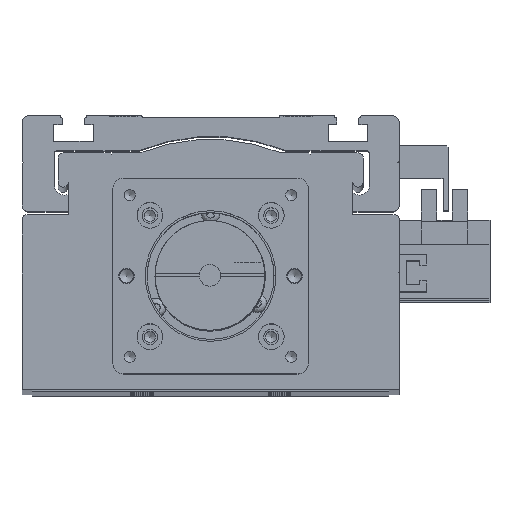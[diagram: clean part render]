
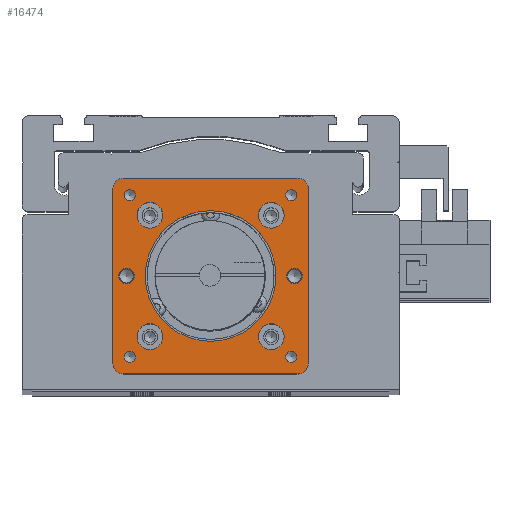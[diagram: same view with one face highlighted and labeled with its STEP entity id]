
A CAD part, top view. The second image highlights one B-rep face of the part: STEP entity #16474.
In plain terms, the highlighted planar face has unit normal (0, 0, 1).
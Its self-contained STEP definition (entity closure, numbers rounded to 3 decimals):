
#16238=CARTESIAN_POINT('',(54.0,57.0,0.0));
#16239=VERTEX_POINT('',#16238);
#16246=CARTESIAN_POINT('',(57.0,54.0,0.0));
#16247=VERTEX_POINT('',#16246);
#16248=CARTESIAN_POINT('',(54.0,54.0,0.0));
#16249=DIRECTION('',(0.0,0.0,-1.));
#16250=DIRECTION('',(0.707,0.707,0.0));
#16251=AXIS2_PLACEMENT_3D('',#16248,#16249,#16250);
#16252=CIRCLE('',#16251,3.);
#16253=EDGE_CURVE('',#16239,#16247,#16252,.T.);
#16270=CARTESIAN_POINT('',(57.0,3.,0.0));
#16271=VERTEX_POINT('',#16270);
#16272=CARTESIAN_POINT('',(57.0,3.,0.0));
#16273=DIRECTION('',(0.0,1.0,0.0));
#16274=VECTOR('',#16273,51.0);
#16275=LINE('',#16272,#16274);
#16276=EDGE_CURVE('',#16271,#16247,#16275,.T.);
#16295=CARTESIAN_POINT('',(28.5,28.5,0.0));
#16296=DIRECTION('',(0.0,0.0,1.0));
#16297=DIRECTION('',(1.0,0.0,0.0));
#16298=AXIS2_PLACEMENT_3D('',#16295,#16296,#16297);
#16299=PLANE('',#16298);
#16300=ORIENTED_EDGE('',*,*,#16253,.F.);
#16301=CARTESIAN_POINT('',(3.,57.0,0.0));
#16302=VERTEX_POINT('',#16301);
#16303=CARTESIAN_POINT('',(54.0,57.0,0.0));
#16304=DIRECTION('',(-1.0,0.0,0.0));
#16305=VECTOR('',#16304,51.0);
#16306=LINE('',#16303,#16305);
#16307=EDGE_CURVE('',#16239,#16302,#16306,.T.);
#16308=ORIENTED_EDGE('',*,*,#16307,.T.);
#16309=CARTESIAN_POINT('',(0.0,54.0,0.0));
#16310=VERTEX_POINT('',#16309);
#16311=CARTESIAN_POINT('',(3.,54.0,0.0));
#16312=DIRECTION('',(0.0,0.0,-1.0));
#16313=DIRECTION('',(-0.707,0.707,0.0));
#16314=AXIS2_PLACEMENT_3D('',#16311,#16312,#16313);
#16315=CIRCLE('',#16314,3.0);
#16316=EDGE_CURVE('',#16310,#16302,#16315,.T.);
#16317=ORIENTED_EDGE('',*,*,#16316,.F.);
#16318=CARTESIAN_POINT('',(0.0,3.,0.0));
#16319=VERTEX_POINT('',#16318);
#16320=CARTESIAN_POINT('',(0.0,54.0,0.0));
#16321=DIRECTION('',(0.0,-1.0,0.0));
#16322=VECTOR('',#16321,51.0);
#16323=LINE('',#16320,#16322);
#16324=EDGE_CURVE('',#16310,#16319,#16323,.T.);
#16325=ORIENTED_EDGE('',*,*,#16324,.T.);
#16326=CARTESIAN_POINT('',(3.,0.0,0.0));
#16327=VERTEX_POINT('',#16326);
#16328=CARTESIAN_POINT('',(3.,3.,0.0));
#16329=DIRECTION('',(0.0,0.0,-1.));
#16330=DIRECTION('',(-0.707,-0.707,0.0));
#16331=AXIS2_PLACEMENT_3D('',#16328,#16329,#16330);
#16332=CIRCLE('',#16331,3.);
#16333=EDGE_CURVE('',#16327,#16319,#16332,.T.);
#16334=ORIENTED_EDGE('',*,*,#16333,.F.);
#16335=CARTESIAN_POINT('',(54.0,0.0,0.0));
#16336=VERTEX_POINT('',#16335);
#16337=CARTESIAN_POINT('',(3.,0.0,0.0));
#16338=DIRECTION('',(1.0,0.0,0.0));
#16339=VECTOR('',#16338,51.0);
#16340=LINE('',#16337,#16339);
#16341=EDGE_CURVE('',#16327,#16336,#16340,.T.);
#16342=ORIENTED_EDGE('',*,*,#16341,.T.);
#16343=CARTESIAN_POINT('',(54.0,3.,0.0));
#16344=DIRECTION('',(0.0,0.0,-1.));
#16345=DIRECTION('',(0.707,-0.707,0.0));
#16346=AXIS2_PLACEMENT_3D('',#16343,#16344,#16345);
#16347=CIRCLE('',#16346,3.);
#16348=EDGE_CURVE('',#16271,#16336,#16347,.T.);
#16349=ORIENTED_EDGE('',*,*,#16348,.F.);
#16350=ORIENTED_EDGE('',*,*,#16276,.T.);
#16351=EDGE_LOOP('',(#16300,#16308,#16317,#16325,#16334,#16342,#16349,#16350));
#16352=FACE_OUTER_BOUND('',#16351,.T.);
#16353=CARTESIAN_POINT('',(6.25,28.5,0.0));
#16354=VERTEX_POINT('',#16353);
#16355=CARTESIAN_POINT('',(4.,28.5,0.0));
#16356=DIRECTION('',(0.0,0.0,-1.0));
#16357=DIRECTION('',(1.0,0.0,0.0));
#16358=AXIS2_PLACEMENT_3D('',#16355,#16356,#16357);
#16359=CIRCLE('',#16358,2.25);
#16360=EDGE_CURVE('',#16354,#16354,#16359,.T.);
#16361=ORIENTED_EDGE('',*,*,#16360,.T.);
#16362=EDGE_LOOP('',(#16361));
#16363=FACE_BOUND('',#16362,.T.);
#16364=CARTESIAN_POINT('',(55.25,28.5,0.0));
#16365=VERTEX_POINT('',#16364);
#16366=CARTESIAN_POINT('',(53.,28.5,0.0));
#16367=DIRECTION('',(0.0,0.0,-1.0));
#16368=DIRECTION('',(1.0,0.0,0.0));
#16369=AXIS2_PLACEMENT_3D('',#16366,#16367,#16368);
#16370=CIRCLE('',#16369,2.25);
#16371=EDGE_CURVE('',#16365,#16365,#16370,.T.);
#16372=ORIENTED_EDGE('',*,*,#16371,.T.);
#16373=EDGE_LOOP('',(#16372));
#16374=FACE_BOUND('',#16373,.T.);
#16375=CARTESIAN_POINT('',(6.546,4.925,0.0));
#16376=VERTEX_POINT('',#16375);
#16377=CARTESIAN_POINT('',(4.925,4.925,0.0));
#16378=DIRECTION('',(0.0,0.0,-1.0));
#16379=DIRECTION('',(1.0,0.0,0.0));
#16380=AXIS2_PLACEMENT_3D('',#16377,#16378,#16379);
#16381=CIRCLE('',#16380,1.621);
#16382=EDGE_CURVE('',#16376,#16376,#16381,.T.);
#16383=ORIENTED_EDGE('',*,*,#16382,.T.);
#16384=EDGE_LOOP('',(#16383));
#16385=FACE_BOUND('',#16384,.T.);
#16386=CARTESIAN_POINT('',(53.696,52.075,0.0));
#16387=VERTEX_POINT('',#16386);
#16388=CARTESIAN_POINT('',(52.075,52.075,0.0));
#16389=DIRECTION('',(0.0,0.0,-1.0));
#16390=DIRECTION('',(1.0,0.0,0.0));
#16391=AXIS2_PLACEMENT_3D('',#16388,#16389,#16390);
#16392=CIRCLE('',#16391,1.621);
#16393=EDGE_CURVE('',#16387,#16387,#16392,.T.);
#16394=ORIENTED_EDGE('',*,*,#16393,.T.);
#16395=EDGE_LOOP('',(#16394));
#16396=FACE_BOUND('',#16395,.T.);
#16397=CARTESIAN_POINT('',(6.546,52.075,0.0));
#16398=VERTEX_POINT('',#16397);
#16399=CARTESIAN_POINT('',(4.925,52.075,0.0));
#16400=DIRECTION('',(0.0,0.0,-1.0));
#16401=DIRECTION('',(1.0,0.0,0.0));
#16402=AXIS2_PLACEMENT_3D('',#16399,#16400,#16401);
#16403=CIRCLE('',#16402,1.621);
#16404=EDGE_CURVE('',#16398,#16398,#16403,.T.);
#16405=ORIENTED_EDGE('',*,*,#16404,.T.);
#16406=EDGE_LOOP('',(#16405));
#16407=FACE_BOUND('',#16406,.T.);
#16408=CARTESIAN_POINT('',(53.696,4.925,0.0));
#16409=VERTEX_POINT('',#16408);
#16410=CARTESIAN_POINT('',(52.075,4.925,0.0));
#16411=DIRECTION('',(0.0,0.0,-1.0));
#16412=DIRECTION('',(1.0,0.0,0.0));
#16413=AXIS2_PLACEMENT_3D('',#16410,#16411,#16412);
#16414=CIRCLE('',#16413,1.621);
#16415=EDGE_CURVE('',#16409,#16409,#16414,.T.);
#16416=ORIENTED_EDGE('',*,*,#16415,.T.);
#16417=EDGE_LOOP('',(#16416));
#16418=FACE_BOUND('',#16417,.T.);
#16419=CARTESIAN_POINT('',(49.95,10.8,0.0));
#16420=VERTEX_POINT('',#16419);
#16421=CARTESIAN_POINT('',(46.2,10.8,0.0));
#16422=DIRECTION('',(0.0,0.0,-1.0));
#16423=DIRECTION('',(1.0,0.0,0.0));
#16424=AXIS2_PLACEMENT_3D('',#16421,#16422,#16423);
#16425=CIRCLE('',#16424,3.75);
#16426=EDGE_CURVE('',#16420,#16420,#16425,.T.);
#16427=ORIENTED_EDGE('',*,*,#16426,.T.);
#16428=EDGE_LOOP('',(#16427));
#16429=FACE_BOUND('',#16428,.T.);
#16430=CARTESIAN_POINT('',(14.55,46.2,0.0));
#16431=VERTEX_POINT('',#16430);
#16432=CARTESIAN_POINT('',(10.8,46.2,0.0));
#16433=DIRECTION('',(0.0,0.0,-1.0));
#16434=DIRECTION('',(1.0,0.0,0.0));
#16435=AXIS2_PLACEMENT_3D('',#16432,#16433,#16434);
#16436=CIRCLE('',#16435,3.75);
#16437=EDGE_CURVE('',#16431,#16431,#16436,.T.);
#16438=ORIENTED_EDGE('',*,*,#16437,.T.);
#16439=EDGE_LOOP('',(#16438));
#16440=FACE_BOUND('',#16439,.T.);
#16441=CARTESIAN_POINT('',(49.95,46.2,0.0));
#16442=VERTEX_POINT('',#16441);
#16443=CARTESIAN_POINT('',(46.2,46.2,0.0));
#16444=DIRECTION('',(0.0,0.0,-1.0));
#16445=DIRECTION('',(1.0,0.0,0.0));
#16446=AXIS2_PLACEMENT_3D('',#16443,#16444,#16445);
#16447=CIRCLE('',#16446,3.75);
#16448=EDGE_CURVE('',#16442,#16442,#16447,.T.);
#16449=ORIENTED_EDGE('',*,*,#16448,.T.);
#16450=EDGE_LOOP('',(#16449));
#16451=FACE_BOUND('',#16450,.T.);
#16452=CARTESIAN_POINT('',(14.55,10.8,0.0));
#16453=VERTEX_POINT('',#16452);
#16454=CARTESIAN_POINT('',(10.8,10.8,0.0));
#16455=DIRECTION('',(0.0,0.0,-1.0));
#16456=DIRECTION('',(1.0,0.0,0.0));
#16457=AXIS2_PLACEMENT_3D('',#16454,#16455,#16456);
#16458=CIRCLE('',#16457,3.75);
#16459=EDGE_CURVE('',#16453,#16453,#16458,.T.);
#16460=ORIENTED_EDGE('',*,*,#16459,.T.);
#16461=EDGE_LOOP('',(#16460));
#16462=FACE_BOUND('',#16461,.T.);
#16463=CARTESIAN_POINT('',(47.55,28.5,0.0));
#16464=VERTEX_POINT('',#16463);
#16465=CARTESIAN_POINT('',(28.5,28.5,0.0));
#16466=DIRECTION('',(0.0,0.0,-1.0));
#16467=DIRECTION('',(-1.0,0.0,0.0));
#16468=AXIS2_PLACEMENT_3D('',#16465,#16466,#16467);
#16469=CIRCLE('',#16468,19.05);
#16470=EDGE_CURVE('',#16464,#16464,#16469,.T.);
#16471=ORIENTED_EDGE('',*,*,#16470,.T.);
#16472=EDGE_LOOP('',(#16471));
#16473=FACE_BOUND('',#16472,.T.);
#16474=ADVANCED_FACE('',(#16352,#16363,#16374,#16385,#16396,#16407,#16418,#16429,#16440,#16451,#16462,#16473),#16299,.T.);
